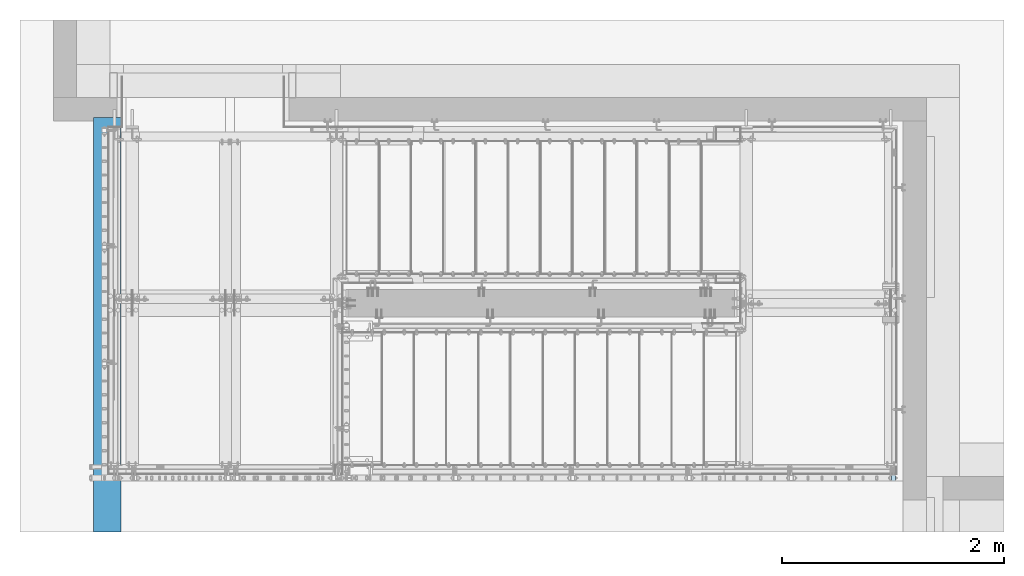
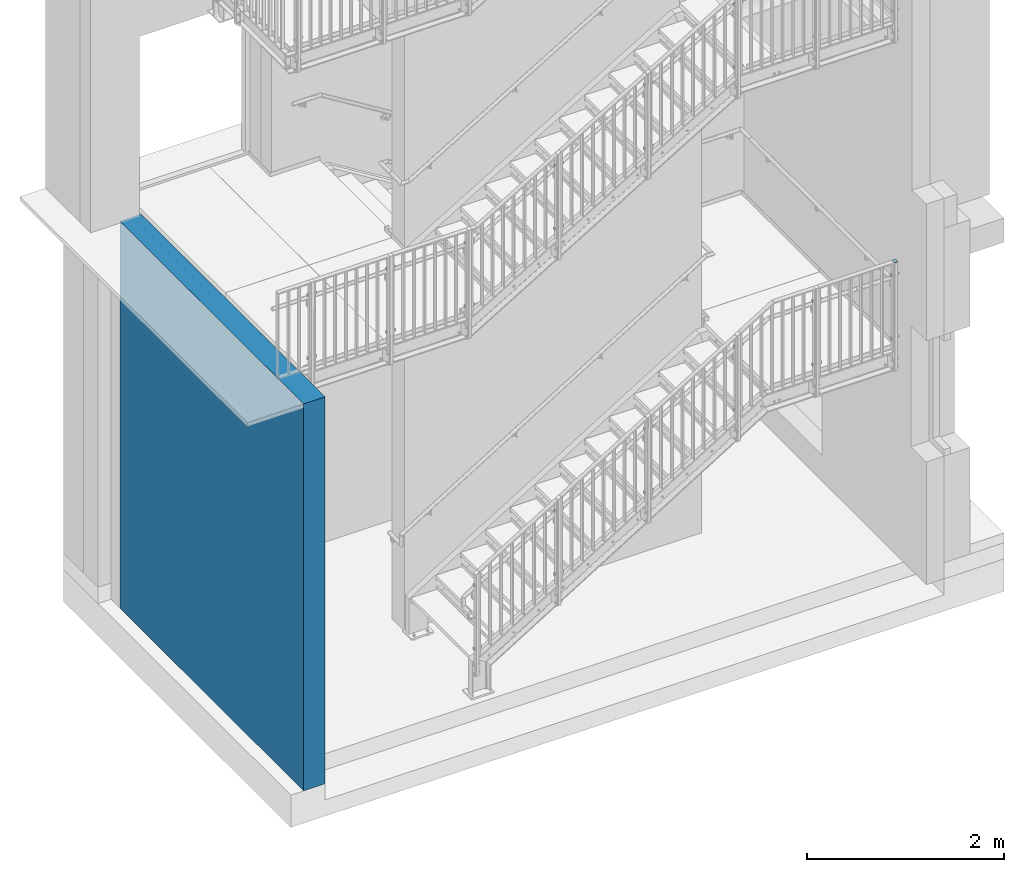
# One storey, part 72 of 410: 1 plate, 1 wall, 4 openings.
"""IFC2X3 building model written with IfcOpenShell, lengths in millimetres."""

from ifc_helpers import new_model, entity, si_unit, converted_unit, point, frame, frame_2d, origin, origin_with_axes, place, context, project, spatial, polyline, circle_curve, line_curve, trimmed, segment, composite_curve, outline, extrude, material, layer, layer_set, element, save


model = new_model("IFC2X3")

# Units and contexts
model_context = context("Model", 3, precision=1e-09, world=origin_with_axes())
ifc_project = project(units=[si_unit("LENGTHUNIT", "METRE", prefix="MILLI"), si_unit("AREAUNIT", "SQUARE_METRE"), si_unit("VOLUMEUNIT", "CUBIC_METRE"), converted_unit("PLANEANGLEUNIT", "DEGREE", entity("IfcPlaneAngleMeasure", 0.01745329), si_unit("PLANEANGLEUNIT", "RADIAN"), dimensions=[0, 0, 0, 0, 0, 0, 0])], contexts=[model_context])

# Site, building, storey
site_placement = place(None, origin_with_axes())
site = spatial("IfcSite", under=ifc_project, at=site_placement, Name="mKR Teilneubau & Sanierung BA1 - Ostfildern", CompositionType="ELEMENT")
building_placement = place(site_placement, origin_with_axes())
building = spatial("IfcBuilding", under=site, at=building_placement, Name="Struktur 1", CompositionType="ELEMENT")
storey_placement = place(building_placement, origin_with_axes())
storey = spatial("IfcBuildingStorey", under=building, at=storey_placement, Name="Default Storey", CompositionType="ELEMENT", Elevation=0.0)

# Plate, openings
ifc_material_1 = material(Name="S235JR")
ifc_layer_1 = layer(ifc_material_1, 5.0)
ifc_layer_set_1 = layer_set([ifc_layer_1], Name="S235JR")
plate_placement = place(None, frame((3205.001468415, 15405.999999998, -1050.6), z_axis=(0.0, 0.0, 1.0), x_axis=(0.0, 1.0, 0.0)))
plate = element("IfcPlate", 1, at=plate_placement, inside=storey, material=ifc_layer_set_1, Name="-", ObjectType="-", context=model_context, shape_type="SweptSolid", body=[
    extrude(outline(polyline([(-25.0, -20.0), (25.0, -20.0), (25.0, 20.0), (-25.0, 20.0), (-25.0, -20.0)])), origin_with_axes(), (0.0, 0.0, 1.0), 5.0),
])
opening_1_placement = place(plate_placement, frame((0.0, 0.0, -0.01), z_axis=(0.0, 0.0, 1.0), x_axis=(1.0, 0.0, 0.0)))
element("IfcOpeningElement", 2, at=opening_1_placement, cuts=plate, ObjectType="Opening", context=model_context, shape_type="SweptSolid", body=[
    extrude(outline(composite_curve([segment(trimmed(line_curve((-25.0, -20.0), (1.0, 0.0), 8.0), [point((-25.0, -20.0))], [point((-17.0, -20.0))], True, "CARTESIAN"), True, "CONTINUOUS"), segment(trimmed(circle_curve(frame_2d((-17.0, -12.0), x_axis=(-1.0, 0.0)), 8.0), [point((-17.0, -20.0))], [point((-25.0, -12.0))], False, "CARTESIAN"), True, "CONTINUOUS"), segment(trimmed(line_curve((-25.0, -12.0), (0.0, -1.0), 8.0), [point((-25.0, -12.0))], [point((-25.0, -20.0))], True, "CARTESIAN"), True, "CONTINUOUS")], self_intersect=False)), origin(), (0.0, 0.0, 1.0), 5.02),
])
opening_2_placement = place(plate_placement, frame((0.0, 0.0, -0.01), z_axis=(0.0, 0.0, 1.0), x_axis=(1.0, 0.0, 0.0)))
element("IfcOpeningElement", 3, at=opening_2_placement, cuts=plate, ObjectType="Opening", context=model_context, shape_type="SweptSolid", body=[
    extrude(outline(composite_curve([segment(trimmed(line_curve((25.0, -20.0), (0.0, 1.0), 8.0), [point((25.0, -20.0))], [point((25.0, -12.0))], True, "CARTESIAN"), True, "CONTINUOUS"), segment(trimmed(circle_curve(frame_2d((17.0, -12.0), x_axis=(-1.0, 0.0)), 8.0), [point((25.0, -12.0))], [point((17.0, -20.0))], False, "CARTESIAN"), True, "CONTINUOUS"), segment(trimmed(line_curve((17.0, -20.0), (1.0, 0.0), 8.0), [point((17.0, -20.0))], [point((25.0, -20.0))], True, "CARTESIAN"), True, "CONTINUOUS")], self_intersect=False)), origin(), (0.0, 0.0, 1.0), 5.02),
])
opening_3_placement = place(plate_placement, frame((0.0, 0.0, -0.01), z_axis=(0.0, 0.0, 1.0), x_axis=(1.0, 0.0, 0.0)))
element("IfcOpeningElement", 4, at=opening_3_placement, cuts=plate, ObjectType="Opening", context=model_context, shape_type="SweptSolid", body=[
    extrude(outline(composite_curve([segment(trimmed(line_curve((25.0, 20.0), (-1.0, 0.0), 8.0), [point((25.0, 20.0))], [point((17.0, 20.0))], True, "CARTESIAN"), True, "CONTINUOUS"), segment(trimmed(circle_curve(frame_2d((17.0, 12.0), x_axis=(-1.0, 0.0)), 8.0), [point((17.0, 20.0))], [point((25.0, 12.0))], False, "CARTESIAN"), True, "CONTINUOUS"), segment(trimmed(line_curve((25.0, 12.0), (0.0, 1.0), 8.0), [point((25.0, 12.0))], [point((25.0, 20.0))], True, "CARTESIAN"), True, "CONTINUOUS")], self_intersect=False)), origin(), (0.0, 0.0, 1.0), 5.02),
])
opening_4_placement = place(plate_placement, frame((0.0, 0.0, -0.01), z_axis=(0.0, 0.0, 1.0), x_axis=(1.0, 0.0, 0.0)))
element("IfcOpeningElement", 5, at=opening_4_placement, cuts=plate, ObjectType="Opening", context=model_context, shape_type="SweptSolid", body=[
    extrude(outline(composite_curve([segment(trimmed(line_curve((-25.0, 20.0), (0.0, -1.0), 8.0), [point((-25.0, 20.0))], [point((-25.0, 12.0))], True, "CARTESIAN"), True, "CONTINUOUS"), segment(trimmed(circle_curve(frame_2d((-17.0, 12.0), x_axis=(-1.0, 0.0)), 8.0), [point((-25.0, 12.0))], [point((-17.0, 20.0))], False, "CARTESIAN"), True, "CONTINUOUS"), segment(trimmed(line_curve((-17.0, 20.0), (-1.0, 0.0), 8.0), [point((-17.0, 20.0))], [point((-25.0, 20.0))], True, "CARTESIAN"), True, "CONTINUOUS")], self_intersect=False)), origin(), (0.0, 0.0, 1.0), 5.02),
])

# Wall
ifc_material_2 = material(Name="C25/30")
ifc_layer_2 = layer(ifc_material_2, 250.0)
ifc_layer_set_2 = layer_set([ifc_layer_2], Name="C25/30")
wall_placement = place(None, frame((-3750.001, 16785.000567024, -2395.0), z_axis=(-1.0, -2.68e-07, 0.0), x_axis=(2.68e-07, -1.0, 0.0)))
element("IfcWall", 6, at=wall_placement, inside=storey, material=ifc_layer_set_2, Name="-", ObjectType="-", context=model_context, shape_type="SweptSolid", body=[
    extrude(outline(polyline([(-1865.0005, -2395.0), (1865.0005, -2395.0), (1865.0005, 2395.0), (-1865.0005, 2395.0), (-1865.0005, -2395.0)])), origin_with_axes(), (0.0, 0.0, 1.0), 250.0),
])

save(model, "model.ifc")
